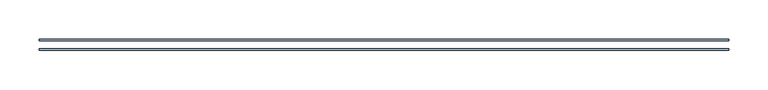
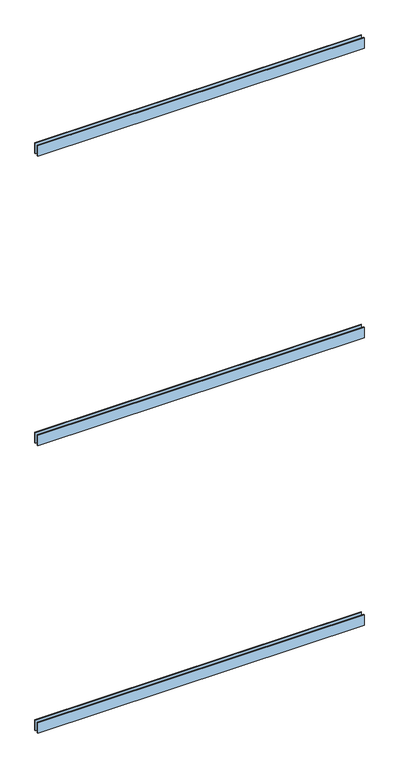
"""IFC4 building model written with IfcOpenShell, lengths in millimetres: window geometry, 32_IM_CF_verdeling_roedes : 32_IM_CF_verdeling_roedes_1x4."""

from ifc_helpers import new_model, si_unit, frame, origin, place, context, project, spatial, polyline, outline, extrude, source, transform, mapped, element, save


def window_b0218697(model_context):
    return source(origin(), model_context, "Body", "SweptSolid", [
        extrude(outline(polyline([(440.0, 7.0), (440.0, 5.0), (-440.0, 5.0), (-440.0, 7.0), (440.0, 7.0)])), frame((0.0, 0.0, 821.0), z_axis=(0.0, 0.0, 1.0), x_axis=(1.0, 0.0, 0.0)), (0.0, 0.0, 1.0), 30.0),
        extrude(outline(polyline([(440.0, -5.0), (440.0, -7.0), (-440.0, -7.0), (-440.0, -5.0), (440.0, -5.0)])), frame((0.0, 0.0, 821.0), z_axis=(0.0, 0.0, 1.0), x_axis=(1.0, 0.0, 0.0)), (0.0, 0.0, 1.0), 30.0),
        extrude(outline(polyline([(440.0, 7.0), (440.0, 5.0), (-440.0, 5.0), (-440.0, 7.0), (440.0, 7.0)])), frame((0.0, 0.0, 2466.0), z_axis=(0.0, 0.0, 1.0), x_axis=(1.0, 0.0, 0.0)), (0.0, 0.0, 1.0), 30.0),
        extrude(outline(polyline([(440.0, -5.0), (440.0, -7.0), (-440.0, -7.0), (-440.0, -5.0), (440.0, -5.0)])), frame((0.0, 0.0, 2466.0), z_axis=(0.0, 0.0, 1.0), x_axis=(1.0, 0.0, 0.0)), (0.0, 0.0, 1.0), 30.0),
        extrude(outline(polyline([(440.0, 7.0), (440.0, 5.0), (-440.0, 5.0), (-440.0, 7.0), (440.0, 7.0)])), frame((0.0, 0.0, 1641.0), z_axis=(0.0, 0.0, 1.0), x_axis=(1.0, 0.0, 0.0)), (0.0, 0.0, 1.0), 30.0),
        extrude(outline(polyline([(440.0, -5.0), (440.0, -7.0), (-440.0, -7.0), (-440.0, -5.0), (440.0, -5.0)])), frame((0.0, 0.0, 1641.0), z_axis=(0.0, 0.0, 1.0), x_axis=(1.0, 0.0, 0.0)), (0.0, 0.0, 1.0), 30.0),
    ])


if __name__ == "__main__":
    model = new_model("IFC4")
    model_context = context("Model", 3, world=origin())
    ifc_project = project(units=[si_unit("LENGTHUNIT", "METRE", prefix="MILLI")], contexts=[model_context])
    site = spatial("IfcSite", under=ifc_project)
    building = spatial("IfcBuilding", under=site)
    placement = place(None, origin())
    window_shape = window_b0218697(model_context)
    element("IfcWindow", 1, ObjectType="32_IM_CF_verdeling_roedes : 32_IM_CF_verdeling_roedes_1x4", at=placement, inside=building, context=model_context, shape_type="MappedRepresentation", body=[
        mapped(window_shape, transform((0.0, 0.0, 0.0), x_axis=(1.0, 0.0, 0.0), y_axis=(0.0, 1.0, 0.0), z_axis=(0.0, 0.0, 1.0))),
    ])
    save(model, "model.ifc")
